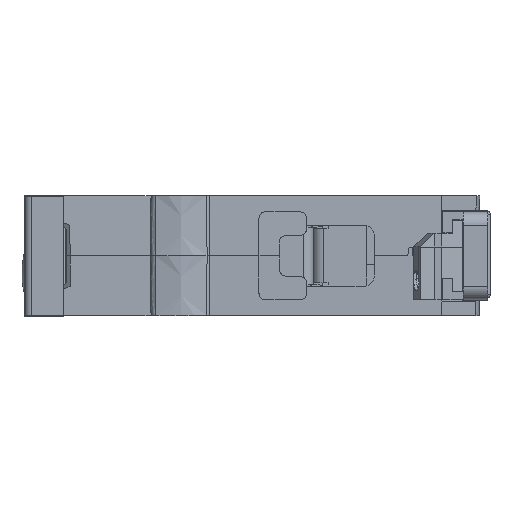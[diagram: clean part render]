
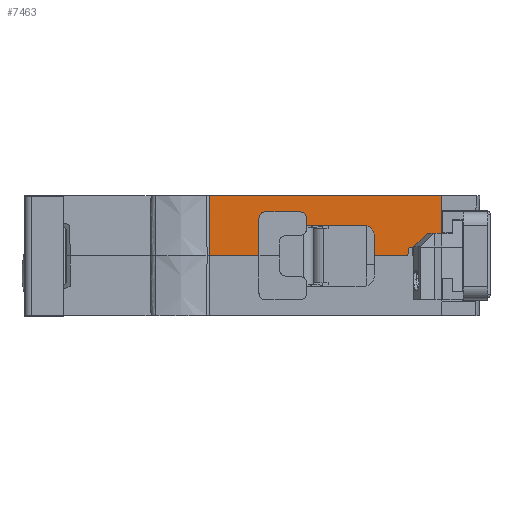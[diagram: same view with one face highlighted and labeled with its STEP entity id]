
A CAD part, front view. The second image highlights one B-rep face of the part: STEP entity #7463.
In plain terms, the highlighted planar face has unit normal (0, -1, 0.009) as drawn and (0.009, 0, 1) by its records, which use the part's own axes.
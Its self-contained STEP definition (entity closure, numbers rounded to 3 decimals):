
#7463=ADVANCED_FACE('',(#37831),#37833,.T.);
#37831=FACE_BOUND('',#37832,.T.);
#37832=EDGE_LOOP('',(#62323,#62324,#62325,#62326,#62327,#62328,#62329,#62330,#62331,
#62332,#62333,#62334,#62335,#62336,#62337,#62338,#62339,#62340,#62341,#62342,#62343,
#62344));
#37833=PLANE('',#37834);
#37834=AXIS2_PLACEMENT_3D('',#37835,#37836,#37837);
#37835=CARTESIAN_POINT('',(0.,0.,40.5));
#37836=DIRECTION('',(0.009,0.,1.));
#37837=DIRECTION('',(1.,0.,-0.009));
#62323=ORIENTED_EDGE('',*,*,#81569,.F.);
#62324=ORIENTED_EDGE('',*,*,#81570,.T.);
#62325=ORIENTED_EDGE('',*,*,#81091,.F.);
#62326=ORIENTED_EDGE('',*,*,#81571,.T.);
#62327=ORIENTED_EDGE('',*,*,#81572,.T.);
#62328=ORIENTED_EDGE('',*,*,#81573,.F.);
#62329=ORIENTED_EDGE('',*,*,#81574,.F.);
#62330=ORIENTED_EDGE('',*,*,#81575,.F.);
#62331=ORIENTED_EDGE('',*,*,#81576,.T.);
#62332=ORIENTED_EDGE('',*,*,#81577,.F.);
#62333=ORIENTED_EDGE('',*,*,#81578,.F.);
#62334=ORIENTED_EDGE('',*,*,#81567,.F.);
#62335=ORIENTED_EDGE('',*,*,#81579,.T.);
#62336=ORIENTED_EDGE('',*,*,#81580,.F.);
#62337=ORIENTED_EDGE('',*,*,#81581,.T.);
#62338=ORIENTED_EDGE('',*,*,#81296,.T.);
#62339=ORIENTED_EDGE('',*,*,#81217,.T.);
#62340=ORIENTED_EDGE('',*,*,#81582,.F.);
#62341=ORIENTED_EDGE('',*,*,#81583,.F.);
#62342=ORIENTED_EDGE('',*,*,#81584,.T.);
#62343=ORIENTED_EDGE('',*,*,#81399,.T.);
#62344=ORIENTED_EDGE('',*,*,#81281,.T.);
#81091=EDGE_CURVE('',#92252,#92254,#92255,.T.);
#81217=EDGE_CURVE('',#92480,#92481,#92482,.T.);
#81281=EDGE_CURVE('',#92590,#92591,#92592,.T.);
#81296=EDGE_CURVE('',#92614,#92480,#92615,.T.);
#81399=EDGE_CURVE('',#92798,#92590,#92799,.T.);
#81567=EDGE_CURVE('',#93095,#93097,#93098,.T.);
#81569=EDGE_CURVE('',#93100,#92591,#93101,.T.);
#81570=EDGE_CURVE('',#93100,#92254,#93102,.T.);
#81571=EDGE_CURVE('',#92252,#93103,#93104,.T.);
#81572=EDGE_CURVE('',#93103,#93105,#93106,.T.);
#81573=EDGE_CURVE('',#93107,#93105,#93108,.T.);
#81574=EDGE_CURVE('',#93109,#93107,#93110,.T.);
#81575=EDGE_CURVE('',#93111,#93109,#93112,.T.);
#81576=EDGE_CURVE('',#93111,#93113,#93114,.T.);
#81577=EDGE_CURVE('',#93115,#93113,#93116,.T.);
#81578=EDGE_CURVE('',#93097,#93115,#93117,.T.);
#81579=EDGE_CURVE('',#93095,#93118,#93119,.T.);
#81580=EDGE_CURVE('',#93120,#93118,#93121,.T.);
#81581=EDGE_CURVE('',#93120,#92614,#93122,.T.);
#81582=EDGE_CURVE('',#92352,#92481,#93123,.T.);
#81583=EDGE_CURVE('',#93124,#92352,#93125,.T.);
#81584=EDGE_CURVE('',#93124,#92798,#93126,.T.);
#92252=VERTEX_POINT('',#114088);
#92254=VERTEX_POINT('',#114092);
#92255=LINE('',#114093,#114094);
#92352=VERTEX_POINT('',#114538);
#92480=VERTEX_POINT('',#115270);
#92481=VERTEX_POINT('',#115271);
#92482=LINE('',#115272,#115273);
#92590=VERTEX_POINT('',#115701);
#92591=VERTEX_POINT('',#115702);
#92592=LINE('',#115703,#115704);
#92614=VERTEX_POINT('',#115757);
#92615=LINE('',#115758,#115759);
#92798=VERTEX_POINT('',#116166);
#92799=LINE('',#116167,#116168);
#93095=VERTEX_POINT('',#116951);
#93097=VERTEX_POINT('',#116955);
#93098=LINE('',#116956,#116957);
#93100=VERTEX_POINT('',#116962);
#93101=LINE('',#116963,#116964);
#93102=B_SPLINE_CURVE_WITH_KNOTS('',3,
(#116966,#116967,#116968,#116969),
.UNSPECIFIED.,.F.,.F.,
(4,4),
(0.,1.),
.UNSPECIFIED.);
#93103=VERTEX_POINT('',#116970);
#93104=LINE('',#116971,#116972);
#93105=VERTEX_POINT('',#116974);
#93106=(BOUNDED_CURVE()B_SPLINE_CURVE(3,
(#116975,#116976,#116977,#116978),
.UNSPECIFIED.,.F.,.F.)B_SPLINE_CURVE_WITH_KNOTS((4,4),
(0.,1.),
.UNSPECIFIED.)CURVE()GEOMETRIC_REPRESENTATION_ITEM()RATIONAL_B_SPLINE_CURVE((1.,
0.805,0.805,1.))REPRESENTATION_ITEM(''));
#93107=VERTEX_POINT('',#116979);
#93108=LINE('',#116980,#116981);
#93109=VERTEX_POINT('',#116983);
#93110=(BOUNDED_CURVE()B_SPLINE_CURVE(3,
(#116984,#116985,#116986,#116987),
.UNSPECIFIED.,.F.,.F.)B_SPLINE_CURVE_WITH_KNOTS((4,4),
(0.,1.),
.UNSPECIFIED.)CURVE()GEOMETRIC_REPRESENTATION_ITEM()RATIONAL_B_SPLINE_CURVE((1.,
0.805,0.805,1.))REPRESENTATION_ITEM(''));
#93111=VERTEX_POINT('',#116988);
#93112=LINE('',#116989,#116990);
#93113=VERTEX_POINT('',#116992);
#93114=LINE('',#116993,#116994);
#93115=VERTEX_POINT('',#116996);
#93116=(BOUNDED_CURVE()B_SPLINE_CURVE(3,
(#116997,#116998,#116999,#117000),
.UNSPECIFIED.,.F.,.F.)B_SPLINE_CURVE_WITH_KNOTS((4,4),
(0.,1.),
.UNSPECIFIED.)CURVE()GEOMETRIC_REPRESENTATION_ITEM()RATIONAL_B_SPLINE_CURVE((1.,
0.773,0.773,1.))REPRESENTATION_ITEM(''));
#93117=LINE('',#117001,#117002);
#93118=VERTEX_POINT('',#117004);
#93119=LINE('',#117005,#117006);
#93120=VERTEX_POINT('',#117008);
#93121=LINE('',#117009,#117010);
#93122=LINE('',#117012,#117013);
#93123=LINE('',#117015,#117016);
#93124=VERTEX_POINT('',#117018);
#93125=LINE('',#117019,#117020);
#93126=LINE('',#117022,#117023);
#114088=CARTESIAN_POINT('',(0.,30.,40.5));
#114092=CARTESIAN_POINT('',(0.,37.316,40.5));
#114093=CARTESIAN_POINT('',(0.,30.,40.5));
#114094=VECTOR('',#114095,1.);
#114095=DIRECTION('',(0.,1.,0.));
#114538=CARTESIAN_POINT('',(0.,7.2,40.5));
#115270=CARTESIAN_POINT('',(1.3,7.274,40.489));
#115271=CARTESIAN_POINT('',(0.,7.288,40.5));
#115272=CARTESIAN_POINT('',(1.3,7.274,40.489));
#115273=VECTOR('',#115274,1.);
#115274=DIRECTION('',(-1.,0.011,0.009));
#115701=CARTESIAN_POINT('',(3.3,3.05,40.471));
#115702=CARTESIAN_POINT('',(8.85,3.147,40.423));
#115703=CARTESIAN_POINT('',(3.3,3.05,40.471));
#115704=VECTOR('',#115705,1.);
#115705=DIRECTION('',(1.,0.017,-0.009));
#115757=CARTESIAN_POINT('',(1.3,7.85,40.489));
#115758=CARTESIAN_POINT('',(1.3,7.85,40.489));
#115759=VECTOR('',#115760,1.);
#115760=DIRECTION('',(0.,-1.,0.));
#116166=CARTESIAN_POINT('',(3.3,5.142,40.471));
#116167=CARTESIAN_POINT('',(3.3,5.142,40.471));
#116168=VECTOR('',#116169,1.);
#116169=DIRECTION('',(0.,-1.,0.));
#116951=CARTESIAN_POINT('',(0.,8.2,40.5));
#116955=CARTESIAN_POINT('',(0.,12.989,40.5));
#116956=CARTESIAN_POINT('',(0.,8.2,40.5));
#116957=VECTOR('',#116958,1.);
#116958=DIRECTION('',(0.,1.,0.));
#116962=CARTESIAN_POINT('',(8.85,37.33,40.423));
#116963=CARTESIAN_POINT('',(8.85,37.33,40.423));
#116964=VECTOR('',#116965,1.);
#116965=DIRECTION('',(0.,-1.,0.));
#116966=CARTESIAN_POINT('',(8.85,37.33,40.423));
#116967=CARTESIAN_POINT('',(5.9,37.325,40.449));
#116968=CARTESIAN_POINT('',(2.95,37.32,40.474));
#116969=CARTESIAN_POINT('',(0.,37.316,40.5));
#116970=CARTESIAN_POINT('',(5.5,30.,40.452));
#116971=CARTESIAN_POINT('',(0.,30.,40.5));
#116972=VECTOR('',#116973,1.);
#116973=DIRECTION('',(1.,0.,-0.009));
#116974=CARTESIAN_POINT('',(6.5,29.,40.443));
#116975=CARTESIAN_POINT('',(5.5,30.,40.452));
#116976=CARTESIAN_POINT('',(6.086,30.,40.447));
#116977=CARTESIAN_POINT('',(6.5,29.586,40.443));
#116978=CARTESIAN_POINT('',(6.5,29.,40.443));
#116979=CARTESIAN_POINT('',(6.5,24.,40.443));
#116980=CARTESIAN_POINT('',(6.5,24.,40.443));
#116981=VECTOR('',#116982,1.);
#116982=DIRECTION('',(0.,1.,0.));
#116983=CARTESIAN_POINT('',(5.5,23.,40.452));
#116984=CARTESIAN_POINT('',(5.5,23.,40.452));
#116985=CARTESIAN_POINT('',(6.086,23.,40.447));
#116986=CARTESIAN_POINT('',(6.5,23.414,40.443));
#116987=CARTESIAN_POINT('',(6.5,24.,40.443));
#116988=CARTESIAN_POINT('',(4.5,23.,40.461));
#116989=CARTESIAN_POINT('',(4.5,23.,40.461));
#116990=VECTOR('',#116991,1.);
#116991=DIRECTION('',(1.,0.,-0.009));
#116992=CARTESIAN_POINT('',(4.5,14.5,40.461));
#116993=CARTESIAN_POINT('',(4.5,23.,40.461));
#116994=VECTOR('',#116995,1.);
#116995=DIRECTION('',(0.,-1.,0.));
#116996=CARTESIAN_POINT('',(2.802,13.013,40.476));
#116997=CARTESIAN_POINT('',(2.802,13.013,40.476));
#116998=CARTESIAN_POINT('',(3.767,12.885,40.467));
#116999=CARTESIAN_POINT('',(4.5,13.526,40.461));
#117000=CARTESIAN_POINT('',(4.5,14.5,40.461));
#117001=CARTESIAN_POINT('',(0.,12.989,40.5));
#117002=VECTOR('',#117003,1.);
#117003=DIRECTION('',(1.,0.009,-0.009));
#117004=CARTESIAN_POINT('',(0.332,8.008,40.497));
#117005=CARTESIAN_POINT('',(0.,8.2,40.5));
#117006=VECTOR('',#117007,1.);
#117007=DIRECTION('',(0.866,-0.5,-0.008));
#117008=CARTESIAN_POINT('',(1.036,8.002,40.491));
#117009=CARTESIAN_POINT('',(1.036,8.002,40.491));
#117010=VECTOR('',#117011,1.);
#117011=DIRECTION('',(-1.,0.009,0.009));
#117012=CARTESIAN_POINT('',(1.036,8.002,40.491));
#117013=VECTOR('',#117014,1.);
#117014=DIRECTION('',(0.866,-0.5,-0.008));
#117015=CARTESIAN_POINT('',(0.,7.2,40.5));
#117016=VECTOR('',#117017,1.);
#117017=DIRECTION('',(0.,1.,0.));
#117018=CARTESIAN_POINT('',(1.311,7.191,40.489));
#117019=CARTESIAN_POINT('',(1.311,7.191,40.489));
#117020=VECTOR('',#117021,1.);
#117021=DIRECTION('',(-1.,0.007,0.009));
#117022=CARTESIAN_POINT('',(1.311,7.191,40.489));
#117023=VECTOR('',#117024,1.);
#117024=DIRECTION('',(0.696,-0.718,-0.006));
